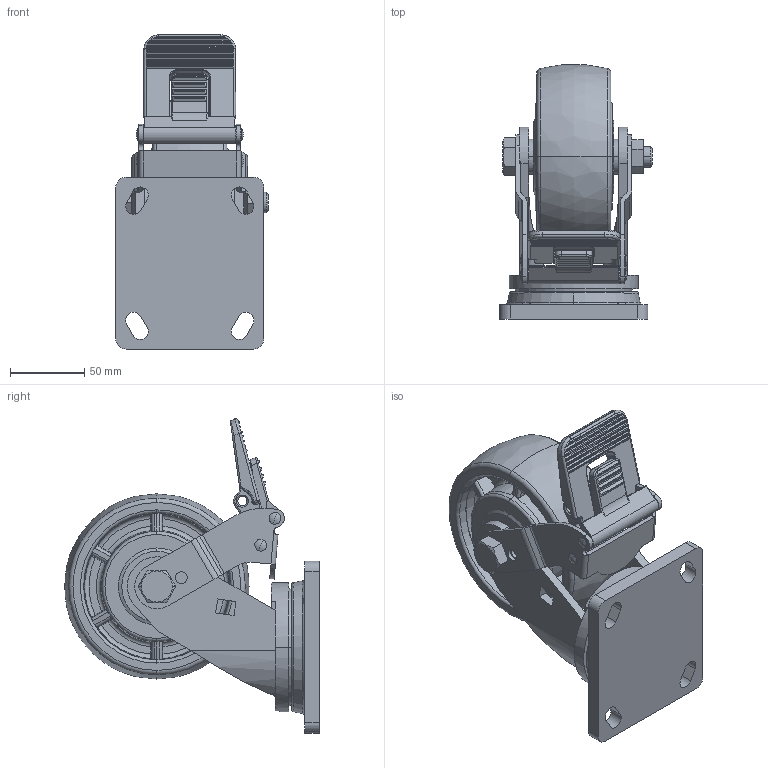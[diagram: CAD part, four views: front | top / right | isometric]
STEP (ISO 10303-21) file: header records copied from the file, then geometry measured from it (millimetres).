
FILE_DESCRIPTION((''),'2;1');
FILE_NAME('78125F-765-26_ASM','2020-07-08T',('lenovo'),(''),'PRO/ENGINEER BY PARAMETRIC TECHNOLOGY CORPORATION, 2010280','PRO/ENGINEER BY PARAMETRIC TECHNOLOGY CORPORATION, 2010280','');
FILE_SCHEMA(('CONFIG_CONTROL_DESIGN'));
Length unit declared in the file: millimetre
Products named in the file (15): PRODUCT_83754; PRT0098; 780F-33-; PRT0100; PRT0101; PRT0102; PRODUCT_55154; PRT0007; PRT0104; PRODUCT_115070; 700-64ON; 700-64OFF; 78125F-765-26__________ASM_ASM; 78125F-765-26__ASM_ASM; 78125F-765-26_ASM
Assembly tree (16 placements, depth 4):
  78125F-765-26_ASM
    78125F-765-26__ASM_ASM
      78125F-765-26__________ASM_ASM
        PRODUCT_83754  x3
        PRT0098
        780F-33-
        PRT0100
        PRT0101
        PRT0102
        PRODUCT_55154
        PRT0007
        PRT0104
        PRODUCT_115070
        700-64ON
        700-64OFF
Bounding box: 103 x 171.67 x 212.14 mm (x, y, z)
Volume: 823464.2 mm3; surface area: 180846.5 mm2
Topology: 14 solids, 14 shells, 634 faces, 1633 edges, 1034 vertices
Faces by surface type: plane 237, cylinder 216, cone 70, torus 67, bspline 33, sphere 11
Entity records: 22436 total; most frequent: CARTESIAN_POINT 7026, ORIENTED_EDGE 3220, DIRECTION 3157, EDGE_CURVE 1610, AXIS2_PLACEMENT_3D 1240, VERTEX_POINT 1020, EDGE_LOOP 686, VECTOR 677
